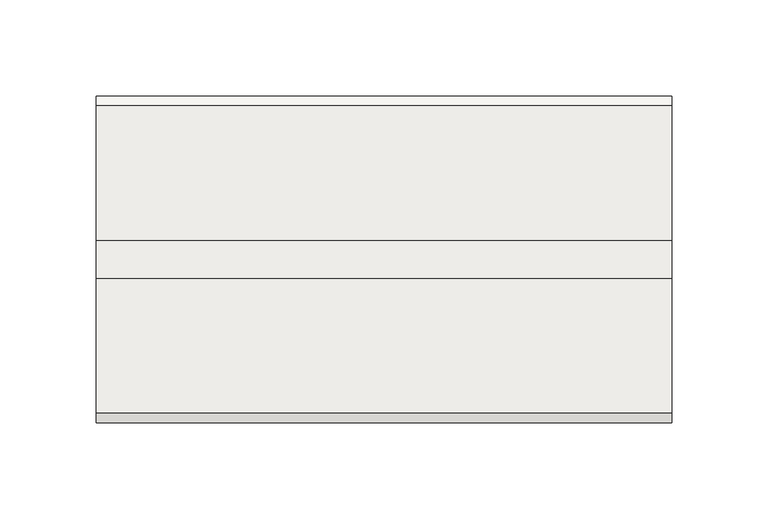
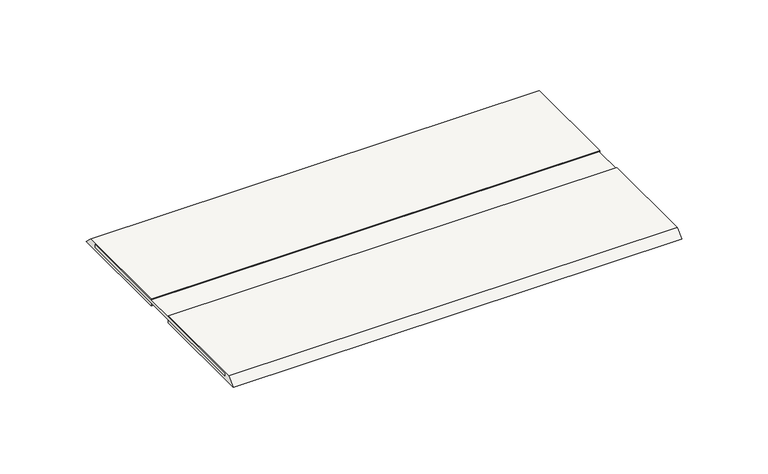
"""IFC4 building model written with IfcOpenShell, lengths in millimetres: covering geometry, Sikadur-Combiflex® SG System (Junta de movimiento) : CINTA Sikadur-Combiflex® SG-10 P, ANCHO 15 cm."""

import ifcopenshell
import ifcopenshell.guid

model = None  # the IFC model being written
_history = None  # IfcOwnerHistory: only IFC2X3 demands one
_inside = {}  # id of a spatial element -> (the spatial element, [elements in it])
_under = {}  # id of a project, library or spatial element -> (it, [spatial elements below it])
_declared = {}  # id of a project -> (the project, [libraries it declares])
_typed = {}  # id of a type object -> (the type object, [elements of that type])
_made_of = {}  # id of a material, layer set ... -> (it, [elements and type objects made of it])


def new_model(schema):
    """Start an empty IFC model of exactly this schema.

    Asked for "IFC4X3", IfcOpenShell would pick the latest addendum, in which some entities
    have other attributes; the version numbers below select the first issue.
    IFC2X3 requires an IfcOwnerHistory on every rooted entity: one is made here for all.
    """
    global model, _history
    if schema == "IFC4X3":
        model = ifcopenshell.file(schema_version=(4, 3, 0, 0))
    else:
        model = ifcopenshell.file(schema=schema)
    _inside.clear()
    _under.clear()
    _declared.clear()
    _typed.clear()
    _made_of.clear()
    _history = None
    if model.schema == "IFC2X3":
        org = make("IfcOrganization", Name="unknown")
        user = make(
            "IfcPersonAndOrganization",
            ThePerson=make("IfcPerson", FamilyName="unknown"),
            TheOrganization=org,
        )
        app = make(
            "IfcApplication",
            ApplicationDeveloper=org,
            Version="unknown",
            ApplicationFullName="unknown",
            ApplicationIdentifier="unknown",
        )
        _history = make(
            "IfcOwnerHistory",
            OwningUser=user,
            OwningApplication=app,
            ChangeAction="ADDED",
            CreationDate=0,
        )
    return model


def make(cls, **values):
    """One entity of the class cls with the attributes given. An attribute that is None is left unset."""
    return model.create_entity(
        cls, **{name: value for name, value in values.items() if value is not None}
    )


def rooted(cls, **values):
    """An entity with a GlobalId (a new one), such as an element, a storey or a relation."""
    return make(cls, GlobalId=ifcopenshell.guid.new(), OwnerHistory=_history, **values)


def si_unit(unit_type, name, prefix=None):
    """IfcSIUnit, for example si_unit("LENGTHUNIT", "METRE", prefix="MILLI")."""
    return make("IfcSIUnit", UnitType=unit_type, Prefix=prefix, Name=name)


def assignment(units):
    """IfcUnitAssignment: the units of a project."""
    return None if units is None else make("IfcUnitAssignment", Units=units)


def point(xyz):
    """IfcCartesianPoint."""
    return None if xyz is None else make("IfcCartesianPoint", Coordinates=xyz)


def direction(xyz):
    """IfcDirection."""
    return None if xyz is None else make("IfcDirection", DirectionRatios=xyz)


def frame(location, z_axis=None, x_axis=None):
    """IfcAxis2Placement3D, a coordinate frame: its origin and axes. An axis left out is left unset."""
    return make(
        "IfcAxis2Placement3D",
        Location=point(location),
        Axis=direction(z_axis),
        RefDirection=direction(x_axis),
    )


def origin():
    """The frame at (0, 0, 0) with its axes left unset."""
    return frame((0.0, 0.0, 0.0))


def place(relative_to, where):
    """IfcLocalPlacement: puts the frame where relative to a parent placement (None: the world)."""
    return make(
        "IfcLocalPlacement", PlacementRelTo=relative_to, RelativePlacement=where
    )


def context(
    kind, dimensions, precision=None, world=None, true_north=None, identifier=None
):
    """IfcGeometricRepresentationContext, for example the 3D "Model" context."""
    return make(
        "IfcGeometricRepresentationContext",
        ContextIdentifier=identifier,
        ContextType=kind,
        CoordinateSpaceDimension=dimensions,
        Precision=precision,
        WorldCoordinateSystem=world,
        TrueNorth=true_north,
    )


def project(units=None, contexts=None):
    """IfcProject with its units and contexts."""
    return rooted(
        "IfcProject",
        Name="project",
        RepresentationContexts=contexts,
        UnitsInContext=assignment(units),
    )


def spatial(cls, under=None, at=None, **own):
    """A site, building, storey or space (cls), placed at a placement, below another one or the project."""
    s = rooted(cls, ObjectPlacement=at, **own)
    if under is not None:
        _under.setdefault(under.id(), (under, []))[1].append(s)
    return s


def polyline(points):
    """IfcPolyline through the points."""
    return make("IfcPolyline", Points=[point(p) for p in points])


def outline(outer, holes=None, kind="AREA"):
    """IfcArbitraryClosedProfileDef: a profile drawn as a closed curve; with holes, ...WithVoids."""
    if holes is None:
        return make("IfcArbitraryClosedProfileDef", ProfileType=kind, OuterCurve=outer)
    return make(
        "IfcArbitraryProfileDefWithVoids",
        ProfileType=kind,
        OuterCurve=outer,
        InnerCurves=holes,
    )


def extrude(swept, where, along, depth):
    """IfcExtrudedAreaSolid: the profile swept, set in the frame where, extruded along a direction by depth."""
    return make(
        "IfcExtrudedAreaSolid",
        SweptArea=swept,
        Position=where,
        ExtrudedDirection=direction(along),
        Depth=depth,
    )


def shape(context_of_items, identifier, shape_type, items):
    """IfcShapeRepresentation: the items that make up one representation, for example the "Body"."""
    return make(
        "IfcShapeRepresentation",
        ContextOfItems=context_of_items,
        RepresentationIdentifier=identifier,
        RepresentationType=shape_type,
        Items=items,
    )


def source(mapping_origin, context_of_items, identifier, shape_type, items):
    """IfcRepresentationMap: a shape defined once, which mapped items show again and again."""
    return make(
        "IfcRepresentationMap",
        MappingOrigin=mapping_origin,
        MappedRepresentation=shape(context_of_items, identifier, shape_type, items),
    )


def transform(
    local_origin,
    x_axis=None,
    y_axis=None,
    z_axis=None,
    scale=None,
    scale2=None,
    scale3=None,
    uniform=True,
):
    """IfcCartesianTransformationOperator3D, or its non-uniform kind. x_axis, y_axis, z_axis: its Axis1, 2, 3."""
    if uniform:
        return make(
            "IfcCartesianTransformationOperator3D",
            Axis1=direction(x_axis),
            Axis2=direction(y_axis),
            LocalOrigin=point(local_origin),
            Scale=scale,
            Axis3=direction(z_axis),
        )
    return make(
        "IfcCartesianTransformationOperator3DnonUniform",
        Axis1=direction(x_axis),
        Axis2=direction(y_axis),
        LocalOrigin=point(local_origin),
        Scale=scale,
        Axis3=direction(z_axis),
        Scale2=scale2,
        Scale3=scale3,
    )


def mapped(mapping_source, mapping_target):
    """IfcMappedItem: shows the shape of a source again, moved by a transform."""
    return make(
        "IfcMappedItem", MappingSource=mapping_source, MappingTarget=mapping_target
    )


def made_of(thing, what):
    """Note that an element or type object is made of a material, layer set ...; save() writes the relation."""
    if what is not None:
        _made_of.setdefault(what.id(), (what, []))[1].append(thing)
    return thing


def element(
    cls,
    number,
    at=None,
    inside=None,
    cuts=None,
    type_object=None,
    material=None,
    context=None,
    identifier="Body",
    shape_type=None,
    held_by="IfcProductDefinitionShape",
    body=None,
    shapes=None,
    **own,
):
    """One element of the class cls, such as IfcWall. Its Tag is "e" and its number.

    at: its placement. inside: the storey or other place that contains it. cuts: it is an
    opening in that element (IfcRelVoidsElement). A single representation is given by context,
    identifier, shape_type and body (its items); several are given by shapes. held_by: the class
    of the entity that holds the representations. save() writes the other relations.
    """
    e = rooted(cls, Tag="e%d" % number, ObjectPlacement=at, **own)
    if body is not None:
        shapes = [shape(context, identifier, shape_type, body)]
    if shapes is not None:
        e.Representation = make(held_by, Representations=shapes)
    if inside is not None:
        _inside.setdefault(inside.id(), (inside, []))[1].append(e)
    if cuts is not None:
        rooted(
            "IfcRelVoidsElement", RelatingBuildingElement=cuts, RelatedOpeningElement=e
        )
    if type_object is not None:
        _typed.setdefault(type_object.id(), (type_object, []))[1].append(e)
    return made_of(e, material)


def aggregate(whole, parts):
    """IfcRelAggregates: a whole, such as a stair, and the parts it consists of."""
    return rooted("IfcRelAggregates", RelatingObject=whole, RelatedObjects=parts)


def save(model, path):
    """Write the relations noted so far, then the file.

    IfcRelAggregates (storeys below a building ...), IfcRelContainedInSpatialStructure (elements
    in a storey), IfcRelDefinesByType, IfcRelAssociatesMaterial and IfcRelDeclares: one each for
    every whole, place, type object, material and project.
    """
    for whole, parts in _under.values():
        aggregate(whole, parts)
    for where, things in _inside.values():
        rooted(
            "IfcRelContainedInSpatialStructure",
            RelatedElements=things,
            RelatingStructure=where,
        )
    for kind, things in _typed.values():
        rooted("IfcRelDefinesByType", RelatedObjects=things, RelatingType=kind)
    for what, things in _made_of.values():
        rooted("IfcRelAssociatesMaterial", RelatedObjects=things, RelatingMaterial=what)
    for by, libraries in _declared.values():
        rooted("IfcRelDeclares", RelatingContext=by, RelatedDefinitions=libraries)
    model.write(path)


def covering_e6b65a22(model_context):
    return source(origin(), model_context, "Body", "SweptSolid", [
        extrude(outline(polyline([(299.7644489, 75.0), (299.7644489, -75.0), (0.0, -75.0), (0.0, 75.0), (299.7644489, 75.0)])), frame((0.0, 0.0, 2.0), z_axis=(0.0, 0.0, 1.0), x_axis=(1.0, 0.0, 0.0)), (0.0, 0.0, 1.0), 2.0),
        extrude(outline(polyline([(80.0, 5.0), (85.0, 0.0), (10.0, 0.0), (10.0, 2.0), (75.0, 2.0), (75.0, 4.0), (10.0, 4.0), (10.0, 5.0), (80.0, 5.0)])), frame((0.0, 0.0, 0.0), z_axis=(1.0, 0.0, 0.0), x_axis=(0.0, 1.0, 0.0)), (0.0, 0.0, 1.0), 299.7644489),
        extrude(outline(polyline([(-80.0, 5.0), (-10.0, 5.0), (-10.0, 4.0), (-75.0, 4.0), (-75.0, 2.0), (-10.0, 2.0), (-10.0, 0.0), (-85.0, 0.0), (-80.0, 5.0)])), frame((0.0, 0.0, 0.0), z_axis=(1.0, 0.0, 0.0), x_axis=(0.0, 1.0, 0.0)), (0.0, 0.0, 1.0), 299.7644489),
    ])


if __name__ == "__main__":
    model = new_model("IFC4")
    model_context = context("Model", 3, world=origin())
    ifc_project = project(units=[si_unit("LENGTHUNIT", "METRE", prefix="MILLI")], contexts=[model_context])
    site = spatial("IfcSite", under=ifc_project)
    building = spatial("IfcBuilding", under=site)
    placement = place(None, origin())
    covering_shape = covering_e6b65a22(model_context)
    element("IfcCovering", 1, ObjectType="Sikadur-Combiflex® SG System (Junta de movimiento) : CINTA Sikadur-Combiflex® SG-10 P, ANCHO 15 cm", at=placement, inside=building, context=model_context, shape_type="MappedRepresentation", body=[
        mapped(covering_shape, transform((0.0, 0.0, 0.0), x_axis=(1.0, 0.0, 0.0), y_axis=(0.0, 1.0, 0.0), z_axis=(0.0, 0.0, 1.0))),
    ])
    save(model, "model.ifc")
